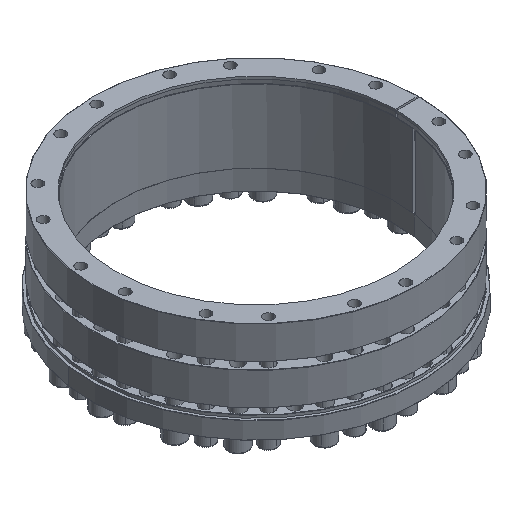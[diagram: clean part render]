
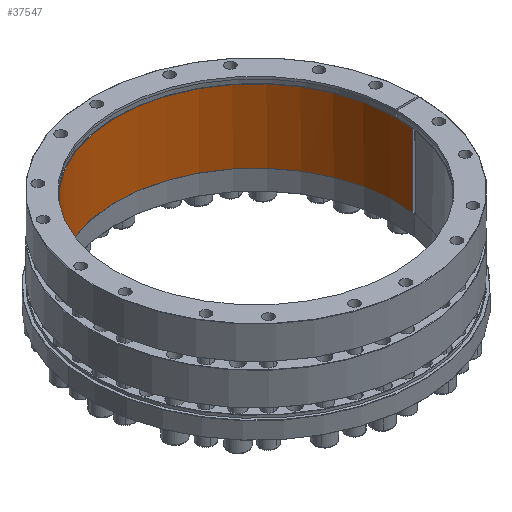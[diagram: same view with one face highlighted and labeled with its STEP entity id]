
A CAD part, isometric view. The second image highlights one B-rep face of the part: STEP entity #37547.
In plain terms, the highlighted cylindrical face has radius 250 mm (diameter 500 mm), a partial arc.
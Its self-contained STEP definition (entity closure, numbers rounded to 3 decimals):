
#21 = AXIS2_PLACEMENT_3D ( 'NONE', #35034, #10241, #39186 ) ;
#51 = VECTOR ( 'NONE', #21287, 1000. ) ;
#154 = CARTESIAN_POINT ( 'NONE',  ( 0., 0., -141.504 ) ) ;
#1850 = CIRCLE ( 'NONE', #13195, 250. ) ;
#2167 = DIRECTION ( 'NONE',  ( 0., 0., 1. ) ) ;
#2447 = DIRECTION ( 'NONE',  ( 0.99, -0.143, 0. ) ) ;
#2568 = AXIS2_PLACEMENT_3D ( 'NONE', #154, #29064, #4325 ) ;
#4325 = DIRECTION ( 'NONE',  ( -0.99, 0.143, 0. ) ) ;
#6379 = ORIENTED_EDGE ( 'NONE', *, *, #38403, .T. ) ;
#10001 = DIRECTION ( 'NONE',  ( 0., 0., 1. ) ) ;
#10114 = VECTOR ( 'NONE', #22765, 1000. ) ;
#10241 = DIRECTION ( 'NONE',  ( 0., 0., 1. ) ) ;
#10558 = CARTESIAN_POINT ( 'NONE',  ( 0., 0., -11.004 ) ) ;
#11814 = VERTEX_POINT ( 'NONE', #46540 ) ;
#12091 = CARTESIAN_POINT ( 'NONE',  ( 247.759, -33.397, -141.504 ) ) ;
#13195 = AXIS2_PLACEMENT_3D ( 'NONE', #48989, #24176, #53109 ) ;
#14327 = ORIENTED_EDGE ( 'NONE', *, *, #15852, .T. ) ;
#14367 = VERTEX_POINT ( 'NONE', #12091 ) ;
#14519 = LINE ( 'NONE', #22749, #44975 ) ;
#15743 = ORIENTED_EDGE ( 'NONE', *, *, #36146, .F. ) ;
#15852 = EDGE_CURVE ( 'NONE', #11814, #39680, #38700, .T. ) ;
#15901 = LINE ( 'NONE', #47598, #10114 ) ;
#15916 = ORIENTED_EDGE ( 'NONE', *, *, #22267, .T. ) ;
#18296 = LINE ( 'NONE', #49123, #48731 ) ;
#21287 = DIRECTION ( 'NONE',  ( 0., 0., 1. ) ) ;
#22267 = EDGE_CURVE ( 'NONE', #14367, #29499, #14519, .T. ) ;
#22749 = CARTESIAN_POINT ( 'NONE',  ( 247.759, -33.397, -11.004 ) ) ;
#22765 = DIRECTION ( 'NONE',  ( 0., 0., -1. ) ) ;
#24176 = DIRECTION ( 'NONE',  ( 0., 0., 1. ) ) ;
#25183 = EDGE_LOOP ( 'NONE', ( #15743, #44088, #43711, #35758, #15916, #6379, #48898, #14327 ) ) ;
#25296 = EDGE_CURVE ( 'NONE', #51287, #28748, #36939, .T. ) ;
#25669 = EDGE_CURVE ( 'NONE', #28748, #14367, #38732, .T. ) ;
#26203 = CARTESIAN_POINT ( 'NONE',  ( 247.413, -35.873, -142.004 ) ) ;
#26994 = CYLINDRICAL_SURFACE ( 'NONE', #40858, 250. ) ;
#27361 = CARTESIAN_POINT ( 'NONE',  ( -247.413, 35.873, -142.004 ) ) ;
#28748 = VERTEX_POINT ( 'NONE', #44577 ) ;
#29064 = DIRECTION ( 'NONE',  ( 0., 0., 1. ) ) ;
#29499 = VERTEX_POINT ( 'NONE', #30410 ) ;
#30410 = CARTESIAN_POINT ( 'NONE',  ( 247.759, -33.397, -11.004 ) ) ;
#32181 = CIRCLE ( 'NONE', #52505, 250. ) ;
#34779 = CARTESIAN_POINT ( 'NONE',  ( 0., 0., -142.004 ) ) ;
#35034 = CARTESIAN_POINT ( 'NONE',  ( 0., 0., -141.504 ) ) ;
#35758 = ORIENTED_EDGE ( 'NONE', *, *, #25669, .T. ) ;
#36146 = EDGE_CURVE ( 'NONE', #46144, #39680, #18296, .T. ) ;
#36939 = LINE ( 'NONE', #37785, #51 ) ;
#37547 = ADVANCED_FACE ( 'NONE', ( #41852 ), #26994, .F. ) ;
#37785 = CARTESIAN_POINT ( 'NONE',  ( 247.413, -35.873, -11.004 ) ) ;
#38403 = EDGE_CURVE ( 'NONE', #29499, #52774, #1850, .T. ) ;
#38700 = CIRCLE ( 'NONE', #21, 250. ) ;
#38732 = CIRCLE ( 'NONE', #2568, 250. ) ;
#38941 = DIRECTION ( 'NONE',  ( 0.99, -0.143, 0. ) ) ;
#39186 = DIRECTION ( 'NONE',  ( -0.99, 0.143, 0. ) ) ;
#39680 = VERTEX_POINT ( 'NONE', #52983 ) ;
#39938 = CARTESIAN_POINT ( 'NONE',  ( -247.042, 38.345, -11.004 ) ) ;
#40858 = AXIS2_PLACEMENT_3D ( 'NONE', #10558, #51826, #2447 ) ;
#41852 = FACE_OUTER_BOUND ( 'NONE', #25183, .T. ) ;
#43711 = ORIENTED_EDGE ( 'NONE', *, *, #25296, .T. ) ;
#44088 = ORIENTED_EDGE ( 'NONE', *, *, #47779, .F. ) ;
#44577 = CARTESIAN_POINT ( 'NONE',  ( 247.413, -35.873, -141.504 ) ) ;
#44946 = DIRECTION ( 'NONE',  ( 0., 0., 1. ) ) ;
#44975 = VECTOR ( 'NONE', #2167, 1000. ) ;
#46144 = VERTEX_POINT ( 'NONE', #27361 ) ;
#46540 = CARTESIAN_POINT ( 'NONE',  ( -247.042, 38.345, -141.504 ) ) ;
#47598 = CARTESIAN_POINT ( 'NONE',  ( -247.042, 38.345, -11.004 ) ) ;
#47779 = EDGE_CURVE ( 'NONE', #51287, #46144, #32181, .T. ) ;
#48383 = EDGE_CURVE ( 'NONE', #52774, #11814, #15901, .T. ) ;
#48731 = VECTOR ( 'NONE', #44946, 1000. ) ;
#48898 = ORIENTED_EDGE ( 'NONE', *, *, #48383, .T. ) ;
#48989 = CARTESIAN_POINT ( 'NONE',  ( 0., 0., -11.004 ) ) ;
#49123 = CARTESIAN_POINT ( 'NONE',  ( -247.413, 35.873, -11.004 ) ) ;
#51287 = VERTEX_POINT ( 'NONE', #26203 ) ;
#51826 = DIRECTION ( 'NONE',  ( 0., 0., 1. ) ) ;
#52505 = AXIS2_PLACEMENT_3D ( 'NONE', #34779, #10001, #38941 ) ;
#52774 = VERTEX_POINT ( 'NONE', #39938 ) ;
#52983 = CARTESIAN_POINT ( 'NONE',  ( -247.413, 35.873, -141.504 ) ) ;
#53109 = DIRECTION ( 'NONE',  ( 0.99, -0.143, 0. ) ) ;
